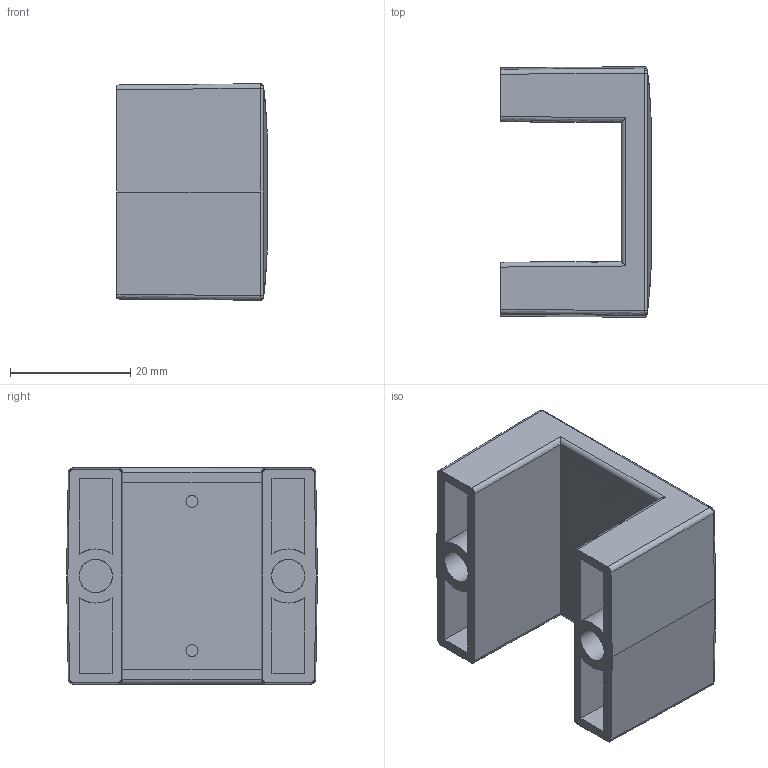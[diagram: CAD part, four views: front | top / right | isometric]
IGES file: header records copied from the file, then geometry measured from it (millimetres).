
Start section: C
Global section: file name: 8223-41.igs; native system: By Siemens PLM Incorporated; preprocessor: XPlus GENERIC/IGES 16.0.42; author: Author; organization: Title; date: 20231115.111133; units: millimetre
Bounding box: 25 x 41.69 x 35.99 mm (x, y, z)
Surface area: 12284 mm2 (no closed solid volume)
Topology: 0 solids, 0 shells, 163 faces, 862 edges, 854 vertices
Faces by surface type: bspline 163
